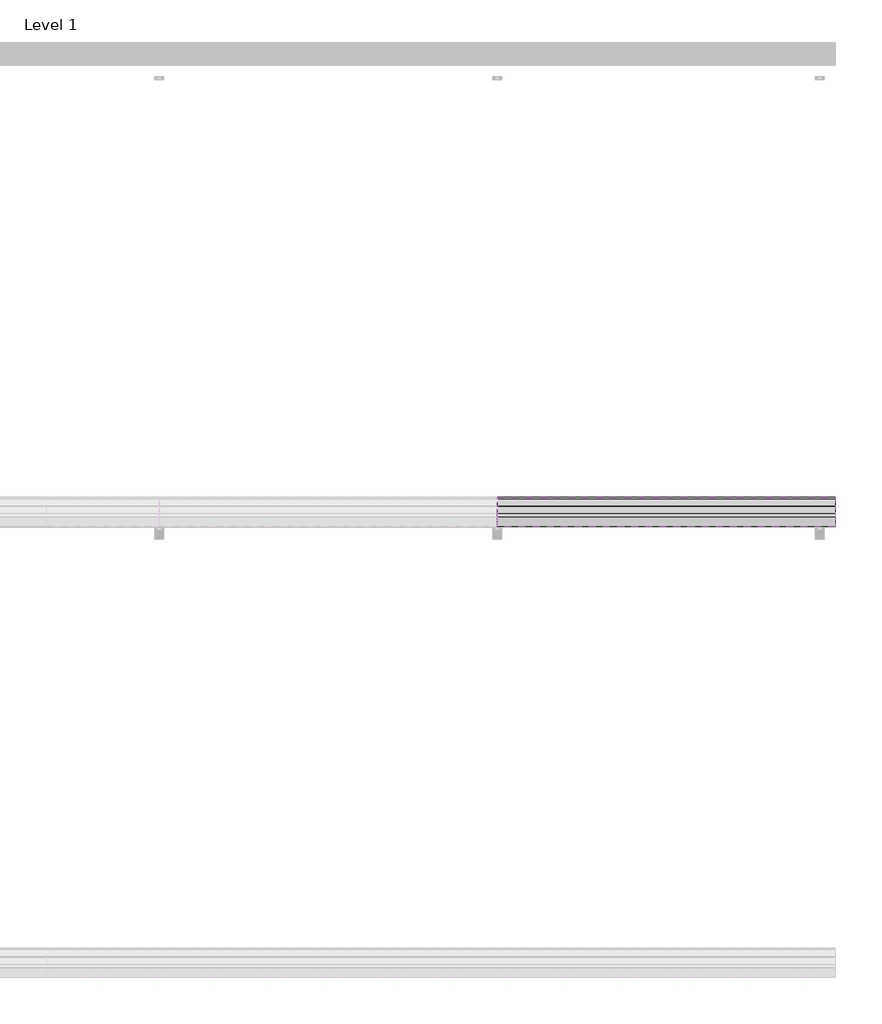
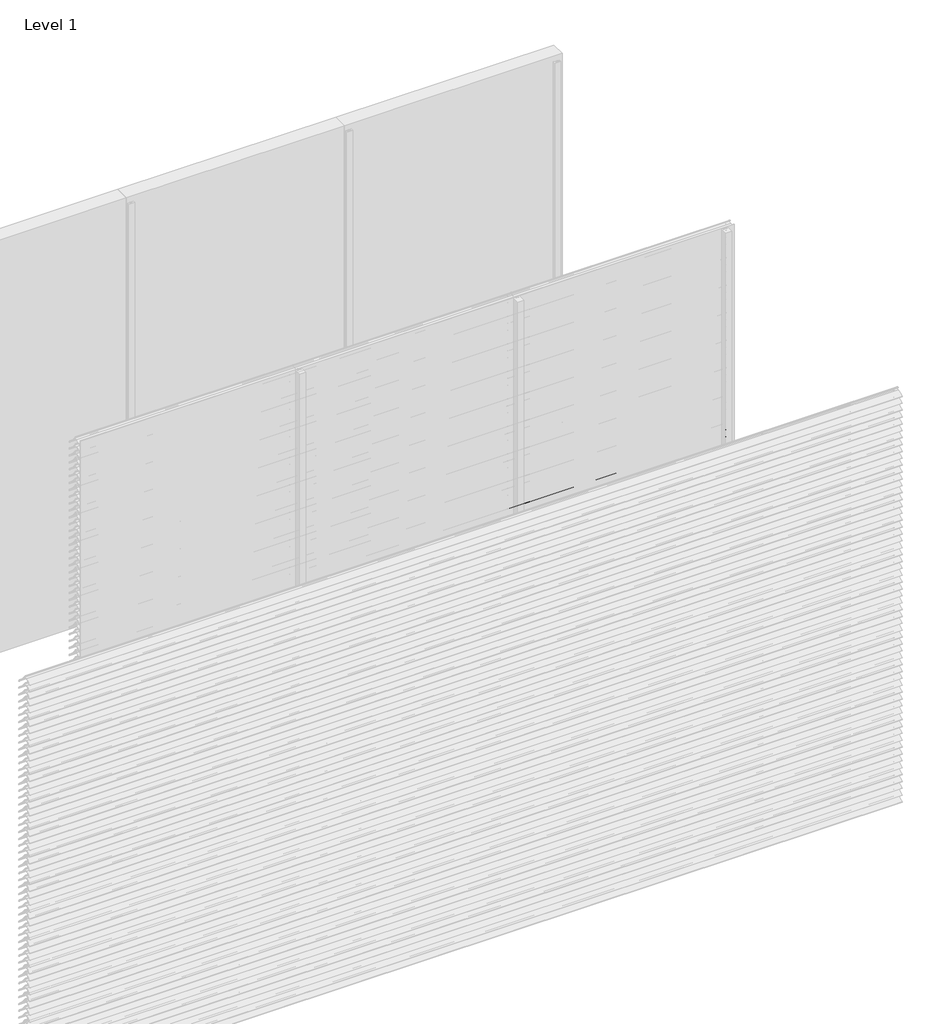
# One storey, part 87 of 173: 18 proxies.
"""IFC4 building model written with IfcOpenShell, lengths in millimetres."""

from ifc_helpers import new_model, si_unit, point, frame, frame_2d, origin, place, context, project, spatial, polyline, circle_curve, trimmed, segment, composite_curve, outline, extrude, element, save

model = new_model("IFC4")

# Units and contexts
model_context = context("Model", 3, world=origin())
ifc_project = project(units=[si_unit("LENGTHUNIT", "METRE", prefix="MILLI")], contexts=[model_context])

# Site, building, storey
site = spatial("IfcSite", under=ifc_project)
building = spatial("IfcBuilding", under=site)
storey = spatial("IfcBuildingStorey", under=building, Name="Level 1", Elevation=0.0)

# Proxies
placement = place(None, origin())
element("IfcBuildingElementProxy", 1, Name="Wall Sweeps", at=placement, inside=storey, context=model_context, shape_type="SweptSolid", body=[
    extrude(outline(composite_curve([segment(polyline([(-29998.0, 1459.1474905), (-29998.0, 1461.6227417)]), True, "CONTINUOUS"), segment(trimmed(circle_curve(frame_2d((-29951.2682172, 1416.2200208)), 65.1557103), [point((-29998.0, 1461.6227417))], [point((-29954.4014323, 1481.3003524))], False, "CARTESIAN"), True, "CONTINUOUS"), segment(polyline([(-29954.4014323, 1481.3003524), (-29934.8315836, 1481.3003524)]), True, "CONTINUOUS"), segment(trimmed(circle_curve(frame_2d((-29732.7329489, 1628.5533172)), 250.0545817), [point((-29934.8315836, 1481.3003524))], [point((-29941.4452143, 1490.8344583))], False, "CARTESIAN"), True, "CONTINUOUS"), segment(trimmed(circle_curve(frame_2d((-29953.2981792, 1485.1737835)), 13.1352966), [point((-29941.4452143, 1490.8344583))], [point((-29953.8171475, 1498.298824))], True, "CARTESIAN"), True, "CONTINUOUS"), segment(polyline([(-29953.8171475, 1498.298824), (-29953.8171475, 1500.0)]), True, "CONTINUOUS"), segment(trimmed(circle_curve(frame_2d((-29953.2981792, 1485.1737835)), 14.8352966), [point((-29953.8171475, 1500.0))], [point((-29939.9637661, 1491.6760487))], False, "CARTESIAN"), True, "CONTINUOUS"), segment(trimmed(circle_curve(frame_2d((-29732.7329489, 1628.5533172)), 248.3545817), [point((-29939.9637661, 1491.6760487))], [point((-29873.8787895, 1424.2059416))], True, "CARTESIAN"), True, "CONTINUOUS"), segment(trimmed(circle_curve(frame_2d((-29883.8147537, 1411.6649442)), 16.0), [point((-29873.8787895, 1424.2059416))], [point((-29867.8648347, 1410.4))], False, "CARTESIAN"), True, "CONTINUOUS"), segment(polyline([(-29867.8648347, 1410.4), (-29869.6712069, 1410.4)]), True, "CONTINUOUS"), segment(trimmed(circle_curve(frame_2d((-29883.8147537, 1411.6649442)), 14.2), [point((-29869.6712069, 1410.4))], [point((-29874.9518628, 1422.7594998))], True, "CARTESIAN"), True, "CONTINUOUS"), segment(trimmed(circle_curve(frame_2d((-29732.7329489, 1628.5533172)), 250.1545817), [point((-29874.9518628, 1422.7594998))], [point((-29933.7064024, 1479.6003524))], False, "CARTESIAN"), True, "CONTINUOUS"), segment(polyline([(-29933.7064024, 1479.6003524), (-29954.3602632, 1479.6003524)]), True, "CONTINUOUS"), segment(trimmed(circle_curve(frame_2d((-29951.2682172, 1416.2200208)), 63.4557103), [point((-29954.3602632, 1479.6003524))], [point((-29998.0, 1459.1474905))], True, "CARTESIAN"), True, "CONTINUOUS")], self_intersect=False)), frame((4500.0, 0.0, 0.0), z_axis=(1.0, 0.0, 0.0), x_axis=(0.0, 1.0, 0.0)), (0.0, 0.0, 1.0), 1500.0),
])
element("IfcBuildingElementProxy", 2, Name="Wall Sweeps", at=placement, inside=storey, context=model_context, shape_type="SweptSolid", body=[
    extrude(outline(composite_curve([segment(polyline([(-29998.0, 1409.1474905), (-29998.0, 1411.6227417)]), True, "CONTINUOUS"), segment(trimmed(circle_curve(frame_2d((-29951.2682172, 1366.2200208)), 65.1557103), [point((-29998.0, 1411.6227417))], [point((-29954.4014323, 1431.3003524))], False, "CARTESIAN"), True, "CONTINUOUS"), segment(polyline([(-29954.4014323, 1431.3003524), (-29934.8315836, 1431.3003524)]), True, "CONTINUOUS"), segment(trimmed(circle_curve(frame_2d((-29732.7329489, 1578.5533172)), 250.0545817), [point((-29934.8315836, 1431.3003524))], [point((-29941.4452143, 1440.8344583))], False, "CARTESIAN"), True, "CONTINUOUS"), segment(trimmed(circle_curve(frame_2d((-29953.2981792, 1435.1737835)), 13.1352966), [point((-29941.4452143, 1440.8344583))], [point((-29953.8171475, 1448.298824))], True, "CARTESIAN"), True, "CONTINUOUS"), segment(polyline([(-29953.8171475, 1448.298824), (-29953.8171475, 1450.0)]), True, "CONTINUOUS"), segment(trimmed(circle_curve(frame_2d((-29953.2981792, 1435.1737835)), 14.8352966), [point((-29953.8171475, 1450.0))], [point((-29939.9637661, 1441.6760487))], False, "CARTESIAN"), True, "CONTINUOUS"), segment(trimmed(circle_curve(frame_2d((-29732.7329489, 1578.5533172)), 248.3545817), [point((-29939.9637661, 1441.6760487))], [point((-29873.8787895, 1374.2059416))], True, "CARTESIAN"), True, "CONTINUOUS"), segment(trimmed(circle_curve(frame_2d((-29883.8147537, 1361.6649442)), 16.0), [point((-29873.8787895, 1374.2059416))], [point((-29867.8648347, 1360.4))], False, "CARTESIAN"), True, "CONTINUOUS"), segment(polyline([(-29867.8648347, 1360.4), (-29869.6712069, 1360.4)]), True, "CONTINUOUS"), segment(trimmed(circle_curve(frame_2d((-29883.8147537, 1361.6649442)), 14.2), [point((-29869.6712069, 1360.4))], [point((-29874.9518628, 1372.7594998))], True, "CARTESIAN"), True, "CONTINUOUS"), segment(trimmed(circle_curve(frame_2d((-29732.7329489, 1578.5533172)), 250.1545817), [point((-29874.9518628, 1372.7594998))], [point((-29933.7064024, 1429.6003524))], False, "CARTESIAN"), True, "CONTINUOUS"), segment(polyline([(-29933.7064024, 1429.6003524), (-29954.3602632, 1429.6003524)]), True, "CONTINUOUS"), segment(trimmed(circle_curve(frame_2d((-29951.2682172, 1366.2200208)), 63.4557103), [point((-29954.3602632, 1429.6003524))], [point((-29998.0, 1409.1474905))], True, "CARTESIAN"), True, "CONTINUOUS")], self_intersect=False)), frame((4500.0, 0.0, 0.0), z_axis=(1.0, 0.0, 0.0), x_axis=(0.0, 1.0, 0.0)), (0.0, 0.0, 1.0), 1500.0),
])
element("IfcBuildingElementProxy", 3, Name="Wall Sweeps", at=placement, inside=storey, context=model_context, shape_type="SweptSolid", body=[
    extrude(outline(composite_curve([segment(polyline([(-29998.0, 1359.1474905), (-29998.0, 1361.6227417)]), True, "CONTINUOUS"), segment(trimmed(circle_curve(frame_2d((-29951.2682172, 1316.2200208)), 65.1557103), [point((-29998.0, 1361.6227417))], [point((-29954.4014323, 1381.3003524))], False, "CARTESIAN"), True, "CONTINUOUS"), segment(polyline([(-29954.4014323, 1381.3003524), (-29934.8315836, 1381.3003524)]), True, "CONTINUOUS"), segment(trimmed(circle_curve(frame_2d((-29732.7329489, 1528.5533172)), 250.0545817), [point((-29934.8315836, 1381.3003524))], [point((-29941.4452143, 1390.8344583))], False, "CARTESIAN"), True, "CONTINUOUS"), segment(trimmed(circle_curve(frame_2d((-29953.2981792, 1385.1737835)), 13.1352966), [point((-29941.4452143, 1390.8344583))], [point((-29953.8171475, 1398.298824))], True, "CARTESIAN"), True, "CONTINUOUS"), segment(polyline([(-29953.8171475, 1398.298824), (-29953.8171475, 1400.0)]), True, "CONTINUOUS"), segment(trimmed(circle_curve(frame_2d((-29953.2981792, 1385.1737835)), 14.8352966), [point((-29953.8171475, 1400.0))], [point((-29939.9637661, 1391.6760487))], False, "CARTESIAN"), True, "CONTINUOUS"), segment(trimmed(circle_curve(frame_2d((-29732.7329489, 1528.5533172)), 248.3545817), [point((-29939.9637661, 1391.6760487))], [point((-29873.8787895, 1324.2059416))], True, "CARTESIAN"), True, "CONTINUOUS"), segment(trimmed(circle_curve(frame_2d((-29883.8147537, 1311.6649442)), 16.0), [point((-29873.8787895, 1324.2059416))], [point((-29867.8648347, 1310.4))], False, "CARTESIAN"), True, "CONTINUOUS"), segment(polyline([(-29867.8648347, 1310.4), (-29869.6712069, 1310.4)]), True, "CONTINUOUS"), segment(trimmed(circle_curve(frame_2d((-29883.8147537, 1311.6649442)), 14.2), [point((-29869.6712069, 1310.4))], [point((-29874.9518628, 1322.7594998))], True, "CARTESIAN"), True, "CONTINUOUS"), segment(trimmed(circle_curve(frame_2d((-29732.7329489, 1528.5533172)), 250.1545817), [point((-29874.9518628, 1322.7594998))], [point((-29933.7064024, 1379.6003524))], False, "CARTESIAN"), True, "CONTINUOUS"), segment(polyline([(-29933.7064024, 1379.6003524), (-29954.3602632, 1379.6003524)]), True, "CONTINUOUS"), segment(trimmed(circle_curve(frame_2d((-29951.2682172, 1316.2200208)), 63.4557103), [point((-29954.3602632, 1379.6003524))], [point((-29998.0, 1359.1474905))], True, "CARTESIAN"), True, "CONTINUOUS")], self_intersect=False)), frame((4500.0, 0.0, 0.0), z_axis=(1.0, 0.0, 0.0), x_axis=(0.0, 1.0, 0.0)), (0.0, 0.0, 1.0), 1500.0),
])
element("IfcBuildingElementProxy", 4, Name="Wall Sweeps", at=placement, inside=storey, context=model_context, shape_type="SweptSolid", body=[
    extrude(outline(composite_curve([segment(polyline([(-29998.0, 1309.1474905), (-29998.0, 1311.6227417)]), True, "CONTINUOUS"), segment(trimmed(circle_curve(frame_2d((-29951.2682172, 1266.2200208)), 65.1557103), [point((-29998.0, 1311.6227417))], [point((-29954.4014323, 1331.3003524))], False, "CARTESIAN"), True, "CONTINUOUS"), segment(polyline([(-29954.4014323, 1331.3003524), (-29934.8315836, 1331.3003524)]), True, "CONTINUOUS"), segment(trimmed(circle_curve(frame_2d((-29732.7329489, 1478.5533172)), 250.0545817), [point((-29934.8315836, 1331.3003524))], [point((-29941.4452143, 1340.8344583))], False, "CARTESIAN"), True, "CONTINUOUS"), segment(trimmed(circle_curve(frame_2d((-29953.2981792, 1335.1737835)), 13.1352966), [point((-29941.4452143, 1340.8344583))], [point((-29953.8171475, 1348.298824))], True, "CARTESIAN"), True, "CONTINUOUS"), segment(polyline([(-29953.8171475, 1348.298824), (-29953.8171475, 1350.0)]), True, "CONTINUOUS"), segment(trimmed(circle_curve(frame_2d((-29953.2981792, 1335.1737835)), 14.8352966), [point((-29953.8171475, 1350.0))], [point((-29939.9637661, 1341.6760487))], False, "CARTESIAN"), True, "CONTINUOUS"), segment(trimmed(circle_curve(frame_2d((-29732.7329489, 1478.5533172)), 248.3545817), [point((-29939.9637661, 1341.6760487))], [point((-29873.8787895, 1274.2059416))], True, "CARTESIAN"), True, "CONTINUOUS"), segment(trimmed(circle_curve(frame_2d((-29883.8147537, 1261.6649442)), 16.0), [point((-29873.8787895, 1274.2059416))], [point((-29867.8648347, 1260.4))], False, "CARTESIAN"), True, "CONTINUOUS"), segment(polyline([(-29867.8648347, 1260.4), (-29869.6712069, 1260.4)]), True, "CONTINUOUS"), segment(trimmed(circle_curve(frame_2d((-29883.8147537, 1261.6649442)), 14.2), [point((-29869.6712069, 1260.4))], [point((-29874.9518628, 1272.7594998))], True, "CARTESIAN"), True, "CONTINUOUS"), segment(trimmed(circle_curve(frame_2d((-29732.7329489, 1478.5533172)), 250.1545817), [point((-29874.9518628, 1272.7594998))], [point((-29933.7064024, 1329.6003524))], False, "CARTESIAN"), True, "CONTINUOUS"), segment(polyline([(-29933.7064024, 1329.6003524), (-29954.3602632, 1329.6003524)]), True, "CONTINUOUS"), segment(trimmed(circle_curve(frame_2d((-29951.2682172, 1266.2200208)), 63.4557103), [point((-29954.3602632, 1329.6003524))], [point((-29998.0, 1309.1474905))], True, "CARTESIAN"), True, "CONTINUOUS")], self_intersect=False)), frame((4500.0, 0.0, 0.0), z_axis=(1.0, 0.0, 0.0), x_axis=(0.0, 1.0, 0.0)), (0.0, 0.0, 1.0), 1500.0),
])
element("IfcBuildingElementProxy", 5, Name="Wall Sweeps", at=placement, inside=storey, context=model_context, shape_type="SweptSolid", body=[
    extrude(outline(composite_curve([segment(polyline([(-29998.0, 1259.1474905), (-29998.0, 1261.6227417)]), True, "CONTINUOUS"), segment(trimmed(circle_curve(frame_2d((-29951.2682172, 1216.2200208)), 65.1557103), [point((-29998.0, 1261.6227417))], [point((-29954.4014323, 1281.3003524))], False, "CARTESIAN"), True, "CONTINUOUS"), segment(polyline([(-29954.4014323, 1281.3003524), (-29934.8315836, 1281.3003524)]), True, "CONTINUOUS"), segment(trimmed(circle_curve(frame_2d((-29732.7329489, 1428.5533172)), 250.0545817), [point((-29934.8315836, 1281.3003524))], [point((-29941.4452143, 1290.8344583))], False, "CARTESIAN"), True, "CONTINUOUS"), segment(trimmed(circle_curve(frame_2d((-29953.2981792, 1285.1737835)), 13.1352966), [point((-29941.4452143, 1290.8344583))], [point((-29953.8171475, 1298.298824))], True, "CARTESIAN"), True, "CONTINUOUS"), segment(polyline([(-29953.8171475, 1298.298824), (-29953.8171475, 1300.0)]), True, "CONTINUOUS"), segment(trimmed(circle_curve(frame_2d((-29953.2981792, 1285.1737835)), 14.8352966), [point((-29953.8171475, 1300.0))], [point((-29939.9637661, 1291.6760487))], False, "CARTESIAN"), True, "CONTINUOUS"), segment(trimmed(circle_curve(frame_2d((-29732.7329489, 1428.5533172)), 248.3545817), [point((-29939.9637661, 1291.6760487))], [point((-29873.8787895, 1224.2059416))], True, "CARTESIAN"), True, "CONTINUOUS"), segment(trimmed(circle_curve(frame_2d((-29883.8147537, 1211.6649442)), 16.0), [point((-29873.8787895, 1224.2059416))], [point((-29867.8648347, 1210.4))], False, "CARTESIAN"), True, "CONTINUOUS"), segment(polyline([(-29867.8648347, 1210.4), (-29869.6712069, 1210.4)]), True, "CONTINUOUS"), segment(trimmed(circle_curve(frame_2d((-29883.8147537, 1211.6649442)), 14.2), [point((-29869.6712069, 1210.4))], [point((-29874.9518628, 1222.7594998))], True, "CARTESIAN"), True, "CONTINUOUS"), segment(trimmed(circle_curve(frame_2d((-29732.7329489, 1428.5533172)), 250.1545817), [point((-29874.9518628, 1222.7594998))], [point((-29933.7064024, 1279.6003524))], False, "CARTESIAN"), True, "CONTINUOUS"), segment(polyline([(-29933.7064024, 1279.6003524), (-29954.3602632, 1279.6003524)]), True, "CONTINUOUS"), segment(trimmed(circle_curve(frame_2d((-29951.2682172, 1216.2200208)), 63.4557103), [point((-29954.3602632, 1279.6003524))], [point((-29998.0, 1259.1474905))], True, "CARTESIAN"), True, "CONTINUOUS")], self_intersect=False)), frame((4500.0, 0.0, 0.0), z_axis=(1.0, 0.0, 0.0), x_axis=(0.0, 1.0, 0.0)), (0.0, 0.0, 1.0), 1500.0),
])
element("IfcBuildingElementProxy", 6, Name="Wall Sweeps", at=placement, inside=storey, context=model_context, shape_type="SweptSolid", body=[
    extrude(outline(composite_curve([segment(polyline([(-29998.0, 1209.1474905), (-29998.0, 1211.6227417)]), True, "CONTINUOUS"), segment(trimmed(circle_curve(frame_2d((-29951.2682172, 1166.2200208)), 65.1557103), [point((-29998.0, 1211.6227417))], [point((-29954.4014323, 1231.3003524))], False, "CARTESIAN"), True, "CONTINUOUS"), segment(polyline([(-29954.4014323, 1231.3003524), (-29934.8315836, 1231.3003524)]), True, "CONTINUOUS"), segment(trimmed(circle_curve(frame_2d((-29732.7329489, 1378.5533172)), 250.0545817), [point((-29934.8315836, 1231.3003524))], [point((-29941.4452143, 1240.8344583))], False, "CARTESIAN"), True, "CONTINUOUS"), segment(trimmed(circle_curve(frame_2d((-29953.2981792, 1235.1737835)), 13.1352966), [point((-29941.4452143, 1240.8344583))], [point((-29953.8171475, 1248.298824))], True, "CARTESIAN"), True, "CONTINUOUS"), segment(polyline([(-29953.8171475, 1248.298824), (-29953.8171475, 1250.0)]), True, "CONTINUOUS"), segment(trimmed(circle_curve(frame_2d((-29953.2981792, 1235.1737835)), 14.8352966), [point((-29953.8171475, 1250.0))], [point((-29939.9637661, 1241.6760487))], False, "CARTESIAN"), True, "CONTINUOUS"), segment(trimmed(circle_curve(frame_2d((-29732.7329489, 1378.5533172)), 248.3545817), [point((-29939.9637661, 1241.6760487))], [point((-29873.8787895, 1174.2059416))], True, "CARTESIAN"), True, "CONTINUOUS"), segment(trimmed(circle_curve(frame_2d((-29883.8147537, 1161.6649442)), 16.0), [point((-29873.8787895, 1174.2059416))], [point((-29867.8648347, 1160.4))], False, "CARTESIAN"), True, "CONTINUOUS"), segment(polyline([(-29867.8648347, 1160.4), (-29869.6712069, 1160.4)]), True, "CONTINUOUS"), segment(trimmed(circle_curve(frame_2d((-29883.8147537, 1161.6649442)), 14.2), [point((-29869.6712069, 1160.4))], [point((-29874.9518628, 1172.7594998))], True, "CARTESIAN"), True, "CONTINUOUS"), segment(trimmed(circle_curve(frame_2d((-29732.7329489, 1378.5533172)), 250.1545817), [point((-29874.9518628, 1172.7594998))], [point((-29933.7064024, 1229.6003524))], False, "CARTESIAN"), True, "CONTINUOUS"), segment(polyline([(-29933.7064024, 1229.6003524), (-29954.3602632, 1229.6003524)]), True, "CONTINUOUS"), segment(trimmed(circle_curve(frame_2d((-29951.2682172, 1166.2200208)), 63.4557103), [point((-29954.3602632, 1229.6003524))], [point((-29998.0, 1209.1474905))], True, "CARTESIAN"), True, "CONTINUOUS")], self_intersect=False)), frame((4500.0, 0.0, 0.0), z_axis=(1.0, 0.0, 0.0), x_axis=(0.0, 1.0, 0.0)), (0.0, 0.0, 1.0), 1500.0),
])
element("IfcBuildingElementProxy", 7, Name="Wall Sweeps", at=placement, inside=storey, context=model_context, shape_type="SweptSolid", body=[
    extrude(outline(composite_curve([segment(polyline([(-29998.0, 1159.1474905), (-29998.0, 1161.6227417)]), True, "CONTINUOUS"), segment(trimmed(circle_curve(frame_2d((-29951.2682172, 1116.2200208)), 65.1557103), [point((-29998.0, 1161.6227417))], [point((-29954.4014323, 1181.3003524))], False, "CARTESIAN"), True, "CONTINUOUS"), segment(polyline([(-29954.4014323, 1181.3003524), (-29934.8315836, 1181.3003524)]), True, "CONTINUOUS"), segment(trimmed(circle_curve(frame_2d((-29732.7329489, 1328.5533172)), 250.0545817), [point((-29934.8315836, 1181.3003524))], [point((-29941.4452143, 1190.8344583))], False, "CARTESIAN"), True, "CONTINUOUS"), segment(trimmed(circle_curve(frame_2d((-29953.2981792, 1185.1737835)), 13.1352966), [point((-29941.4452143, 1190.8344583))], [point((-29953.8171475, 1198.298824))], True, "CARTESIAN"), True, "CONTINUOUS"), segment(polyline([(-29953.8171475, 1198.298824), (-29953.8171475, 1200.0)]), True, "CONTINUOUS"), segment(trimmed(circle_curve(frame_2d((-29953.2981792, 1185.1737835)), 14.8352966), [point((-29953.8171475, 1200.0))], [point((-29939.9637661, 1191.6760487))], False, "CARTESIAN"), True, "CONTINUOUS"), segment(trimmed(circle_curve(frame_2d((-29732.7329489, 1328.5533172)), 248.3545817), [point((-29939.9637661, 1191.6760487))], [point((-29873.8787895, 1124.2059416))], True, "CARTESIAN"), True, "CONTINUOUS"), segment(trimmed(circle_curve(frame_2d((-29883.8147537, 1111.6649442)), 16.0), [point((-29873.8787895, 1124.2059416))], [point((-29867.8648347, 1110.4))], False, "CARTESIAN"), True, "CONTINUOUS"), segment(polyline([(-29867.8648347, 1110.4), (-29869.6712069, 1110.4)]), True, "CONTINUOUS"), segment(trimmed(circle_curve(frame_2d((-29883.8147537, 1111.6649442)), 14.2), [point((-29869.6712069, 1110.4))], [point((-29874.9518628, 1122.7594998))], True, "CARTESIAN"), True, "CONTINUOUS"), segment(trimmed(circle_curve(frame_2d((-29732.7329489, 1328.5533172)), 250.1545817), [point((-29874.9518628, 1122.7594998))], [point((-29933.7064024, 1179.6003524))], False, "CARTESIAN"), True, "CONTINUOUS"), segment(polyline([(-29933.7064024, 1179.6003524), (-29954.3602632, 1179.6003524)]), True, "CONTINUOUS"), segment(trimmed(circle_curve(frame_2d((-29951.2682172, 1116.2200208)), 63.4557103), [point((-29954.3602632, 1179.6003524))], [point((-29998.0, 1159.1474905))], True, "CARTESIAN"), True, "CONTINUOUS")], self_intersect=False)), frame((4500.0, 0.0, 0.0), z_axis=(1.0, 0.0, 0.0), x_axis=(0.0, 1.0, 0.0)), (0.0, 0.0, 1.0), 1500.0),
])
element("IfcBuildingElementProxy", 8, Name="Wall Sweeps", at=placement, inside=storey, context=model_context, shape_type="SweptSolid", body=[
    extrude(outline(composite_curve([segment(polyline([(-29998.0, 1109.1474905), (-29998.0, 1111.6227417)]), True, "CONTINUOUS"), segment(trimmed(circle_curve(frame_2d((-29951.2682172, 1066.2200208)), 65.1557103), [point((-29998.0, 1111.6227417))], [point((-29954.4014323, 1131.3003524))], False, "CARTESIAN"), True, "CONTINUOUS"), segment(polyline([(-29954.4014323, 1131.3003524), (-29934.8315836, 1131.3003524)]), True, "CONTINUOUS"), segment(trimmed(circle_curve(frame_2d((-29732.7329489, 1278.5533172)), 250.0545817), [point((-29934.8315836, 1131.3003524))], [point((-29941.4452143, 1140.8344583))], False, "CARTESIAN"), True, "CONTINUOUS"), segment(trimmed(circle_curve(frame_2d((-29953.2981792, 1135.1737835)), 13.1352966), [point((-29941.4452143, 1140.8344583))], [point((-29953.8171475, 1148.298824))], True, "CARTESIAN"), True, "CONTINUOUS"), segment(polyline([(-29953.8171475, 1148.298824), (-29953.8171475, 1150.0)]), True, "CONTINUOUS"), segment(trimmed(circle_curve(frame_2d((-29953.2981792, 1135.1737835)), 14.8352966), [point((-29953.8171475, 1150.0))], [point((-29939.9637661, 1141.6760487))], False, "CARTESIAN"), True, "CONTINUOUS"), segment(trimmed(circle_curve(frame_2d((-29732.7329489, 1278.5533172)), 248.3545817), [point((-29939.9637661, 1141.6760487))], [point((-29873.8787895, 1074.2059416))], True, "CARTESIAN"), True, "CONTINUOUS"), segment(trimmed(circle_curve(frame_2d((-29883.8147537, 1061.6649442)), 16.0), [point((-29873.8787895, 1074.2059416))], [point((-29867.8648347, 1060.4))], False, "CARTESIAN"), True, "CONTINUOUS"), segment(polyline([(-29867.8648347, 1060.4), (-29869.6712069, 1060.4)]), True, "CONTINUOUS"), segment(trimmed(circle_curve(frame_2d((-29883.8147537, 1061.6649442)), 14.2), [point((-29869.6712069, 1060.4))], [point((-29874.9518628, 1072.7594998))], True, "CARTESIAN"), True, "CONTINUOUS"), segment(trimmed(circle_curve(frame_2d((-29732.7329489, 1278.5533172)), 250.1545817), [point((-29874.9518628, 1072.7594998))], [point((-29933.7064024, 1129.6003524))], False, "CARTESIAN"), True, "CONTINUOUS"), segment(polyline([(-29933.7064024, 1129.6003524), (-29954.3602632, 1129.6003524)]), True, "CONTINUOUS"), segment(trimmed(circle_curve(frame_2d((-29951.2682172, 1066.2200208)), 63.4557103), [point((-29954.3602632, 1129.6003524))], [point((-29998.0, 1109.1474905))], True, "CARTESIAN"), True, "CONTINUOUS")], self_intersect=False)), frame((4500.0, 0.0, 0.0), z_axis=(1.0, 0.0, 0.0), x_axis=(0.0, 1.0, 0.0)), (0.0, 0.0, 1.0), 1500.0),
])
element("IfcBuildingElementProxy", 9, Name="Wall Sweeps", at=placement, inside=storey, context=model_context, shape_type="SweptSolid", body=[
    extrude(outline(composite_curve([segment(polyline([(-29998.0, 1059.1474905), (-29998.0, 1061.6227417)]), True, "CONTINUOUS"), segment(trimmed(circle_curve(frame_2d((-29951.2682172, 1016.2200208)), 65.1557103), [point((-29998.0, 1061.6227417))], [point((-29954.4014323, 1081.3003524))], False, "CARTESIAN"), True, "CONTINUOUS"), segment(polyline([(-29954.4014323, 1081.3003524), (-29934.8315836, 1081.3003524)]), True, "CONTINUOUS"), segment(trimmed(circle_curve(frame_2d((-29732.7329489, 1228.5533172)), 250.0545817), [point((-29934.8315836, 1081.3003524))], [point((-29941.4452143, 1090.8344583))], False, "CARTESIAN"), True, "CONTINUOUS"), segment(trimmed(circle_curve(frame_2d((-29953.2981792, 1085.1737835)), 13.1352966), [point((-29941.4452143, 1090.8344583))], [point((-29953.8171475, 1098.298824))], True, "CARTESIAN"), True, "CONTINUOUS"), segment(polyline([(-29953.8171475, 1098.298824), (-29953.8171475, 1100.0)]), True, "CONTINUOUS"), segment(trimmed(circle_curve(frame_2d((-29953.2981792, 1085.1737835)), 14.8352966), [point((-29953.8171475, 1100.0))], [point((-29939.9637661, 1091.6760487))], False, "CARTESIAN"), True, "CONTINUOUS"), segment(trimmed(circle_curve(frame_2d((-29732.7329489, 1228.5533172)), 248.3545817), [point((-29939.9637661, 1091.6760487))], [point((-29873.8787895, 1024.2059416))], True, "CARTESIAN"), True, "CONTINUOUS"), segment(trimmed(circle_curve(frame_2d((-29883.8147537, 1011.6649442)), 16.0), [point((-29873.8787895, 1024.2059416))], [point((-29867.8648347, 1010.4))], False, "CARTESIAN"), True, "CONTINUOUS"), segment(polyline([(-29867.8648347, 1010.4), (-29869.6712069, 1010.4)]), True, "CONTINUOUS"), segment(trimmed(circle_curve(frame_2d((-29883.8147537, 1011.6649442)), 14.2), [point((-29869.6712069, 1010.4))], [point((-29874.9518628, 1022.7594998))], True, "CARTESIAN"), True, "CONTINUOUS"), segment(trimmed(circle_curve(frame_2d((-29732.7329489, 1228.5533172)), 250.1545817), [point((-29874.9518628, 1022.7594998))], [point((-29933.7064024, 1079.6003524))], False, "CARTESIAN"), True, "CONTINUOUS"), segment(polyline([(-29933.7064024, 1079.6003524), (-29954.3602632, 1079.6003524)]), True, "CONTINUOUS"), segment(trimmed(circle_curve(frame_2d((-29951.2682172, 1016.2200208)), 63.4557103), [point((-29954.3602632, 1079.6003524))], [point((-29998.0, 1059.1474905))], True, "CARTESIAN"), True, "CONTINUOUS")], self_intersect=False)), frame((4500.0, 0.0, 0.0), z_axis=(1.0, 0.0, 0.0), x_axis=(0.0, 1.0, 0.0)), (0.0, 0.0, 1.0), 1500.0),
])
element("IfcBuildingElementProxy", 10, Name="Wall Sweeps", at=placement, inside=storey, context=model_context, shape_type="SweptSolid", body=[
    extrude(outline(composite_curve([segment(polyline([(-29998.0, 1009.1474905), (-29998.0, 1011.6227417)]), True, "CONTINUOUS"), segment(trimmed(circle_curve(frame_2d((-29951.2682172, 966.2200208)), 65.1557103), [point((-29998.0, 1011.6227417))], [point((-29954.4014323, 1031.3003524))], False, "CARTESIAN"), True, "CONTINUOUS"), segment(polyline([(-29954.4014323, 1031.3003524), (-29934.8315836, 1031.3003524)]), True, "CONTINUOUS"), segment(trimmed(circle_curve(frame_2d((-29732.7329489, 1178.5533172)), 250.0545817), [point((-29934.8315836, 1031.3003524))], [point((-29941.4452143, 1040.8344583))], False, "CARTESIAN"), True, "CONTINUOUS"), segment(trimmed(circle_curve(frame_2d((-29953.2981792, 1035.1737835)), 13.1352966), [point((-29941.4452143, 1040.8344583))], [point((-29953.8171475, 1048.298824))], True, "CARTESIAN"), True, "CONTINUOUS"), segment(polyline([(-29953.8171475, 1048.298824), (-29953.8171475, 1050.0)]), True, "CONTINUOUS"), segment(trimmed(circle_curve(frame_2d((-29953.2981792, 1035.1737835)), 14.8352966), [point((-29953.8171475, 1050.0))], [point((-29939.9637661, 1041.6760487))], False, "CARTESIAN"), True, "CONTINUOUS"), segment(trimmed(circle_curve(frame_2d((-29732.7329489, 1178.5533172)), 248.3545817), [point((-29939.9637661, 1041.6760487))], [point((-29873.8787895, 974.2059416))], True, "CARTESIAN"), True, "CONTINUOUS"), segment(trimmed(circle_curve(frame_2d((-29883.8147537, 961.6649442)), 16.0), [point((-29873.8787895, 974.2059416))], [point((-29867.8648347, 960.4))], False, "CARTESIAN"), True, "CONTINUOUS"), segment(polyline([(-29867.8648347, 960.4), (-29869.6712069, 960.4)]), True, "CONTINUOUS"), segment(trimmed(circle_curve(frame_2d((-29883.8147537, 961.6649442)), 14.2), [point((-29869.6712069, 960.4))], [point((-29874.9518628, 972.7594998))], True, "CARTESIAN"), True, "CONTINUOUS"), segment(trimmed(circle_curve(frame_2d((-29732.7329489, 1178.5533172)), 250.1545817), [point((-29874.9518628, 972.7594998))], [point((-29933.7064024, 1029.6003524))], False, "CARTESIAN"), True, "CONTINUOUS"), segment(polyline([(-29933.7064024, 1029.6003524), (-29954.3602632, 1029.6003524)]), True, "CONTINUOUS"), segment(trimmed(circle_curve(frame_2d((-29951.2682172, 966.2200208)), 63.4557103), [point((-29954.3602632, 1029.6003524))], [point((-29998.0, 1009.1474905))], True, "CARTESIAN"), True, "CONTINUOUS")], self_intersect=False)), frame((4500.0, 0.0, 0.0), z_axis=(1.0, 0.0, 0.0), x_axis=(0.0, 1.0, 0.0)), (0.0, 0.0, 1.0), 1500.0),
])
element("IfcBuildingElementProxy", 11, Name="Wall Sweeps", at=placement, inside=storey, context=model_context, shape_type="SweptSolid", body=[
    extrude(outline(composite_curve([segment(polyline([(-29998.0, 959.1474905), (-29998.0, 961.6227417)]), True, "CONTINUOUS"), segment(trimmed(circle_curve(frame_2d((-29951.2682172, 916.2200208)), 65.1557103), [point((-29998.0, 961.6227417))], [point((-29954.4014323, 981.3003524))], False, "CARTESIAN"), True, "CONTINUOUS"), segment(polyline([(-29954.4014323, 981.3003524), (-29934.8315836, 981.3003524)]), True, "CONTINUOUS"), segment(trimmed(circle_curve(frame_2d((-29732.7329489, 1128.5533172)), 250.0545817), [point((-29934.8315836, 981.3003524))], [point((-29941.4452143, 990.8344583))], False, "CARTESIAN"), True, "CONTINUOUS"), segment(trimmed(circle_curve(frame_2d((-29953.2981792, 985.1737835)), 13.1352966), [point((-29941.4452143, 990.8344583))], [point((-29953.8171475, 998.298824))], True, "CARTESIAN"), True, "CONTINUOUS"), segment(polyline([(-29953.8171475, 998.298824), (-29953.8171475, 1000.0)]), True, "CONTINUOUS"), segment(trimmed(circle_curve(frame_2d((-29953.2981792, 985.1737835)), 14.8352966), [point((-29953.8171475, 1000.0))], [point((-29939.9637661, 991.6760487))], False, "CARTESIAN"), True, "CONTINUOUS"), segment(trimmed(circle_curve(frame_2d((-29732.7329489, 1128.5533172)), 248.3545817), [point((-29939.9637661, 991.6760487))], [point((-29873.8787895, 924.2059416))], True, "CARTESIAN"), True, "CONTINUOUS"), segment(trimmed(circle_curve(frame_2d((-29883.8147537, 911.6649442)), 16.0), [point((-29873.8787895, 924.2059416))], [point((-29867.8648347, 910.4))], False, "CARTESIAN"), True, "CONTINUOUS"), segment(polyline([(-29867.8648347, 910.4), (-29869.6712069, 910.4)]), True, "CONTINUOUS"), segment(trimmed(circle_curve(frame_2d((-29883.8147537, 911.6649442)), 14.2), [point((-29869.6712069, 910.4))], [point((-29874.9518628, 922.7594998))], True, "CARTESIAN"), True, "CONTINUOUS"), segment(trimmed(circle_curve(frame_2d((-29732.7329489, 1128.5533172)), 250.1545817), [point((-29874.9518628, 922.7594998))], [point((-29933.7064024, 979.6003524))], False, "CARTESIAN"), True, "CONTINUOUS"), segment(polyline([(-29933.7064024, 979.6003524), (-29954.3602632, 979.6003524)]), True, "CONTINUOUS"), segment(trimmed(circle_curve(frame_2d((-29951.2682172, 916.2200208)), 63.4557103), [point((-29954.3602632, 979.6003524))], [point((-29998.0, 959.1474905))], True, "CARTESIAN"), True, "CONTINUOUS")], self_intersect=False)), frame((4500.0, 0.0, 0.0), z_axis=(1.0, 0.0, 0.0), x_axis=(0.0, 1.0, 0.0)), (0.0, 0.0, 1.0), 1500.0),
])
element("IfcBuildingElementProxy", 12, Name="Wall Sweeps", at=placement, inside=storey, context=model_context, shape_type="SweptSolid", body=[
    extrude(outline(composite_curve([segment(polyline([(-29998.0, 909.1474905), (-29998.0, 911.6227417)]), True, "CONTINUOUS"), segment(trimmed(circle_curve(frame_2d((-29951.2682172, 866.2200208)), 65.1557103), [point((-29998.0, 911.6227417))], [point((-29954.4014323, 931.3003524))], False, "CARTESIAN"), True, "CONTINUOUS"), segment(polyline([(-29954.4014323, 931.3003524), (-29934.8315836, 931.3003524)]), True, "CONTINUOUS"), segment(trimmed(circle_curve(frame_2d((-29732.7329489, 1078.5533172)), 250.0545817), [point((-29934.8315836, 931.3003524))], [point((-29941.4452143, 940.8344583))], False, "CARTESIAN"), True, "CONTINUOUS"), segment(trimmed(circle_curve(frame_2d((-29953.2981792, 935.1737835)), 13.1352966), [point((-29941.4452143, 940.8344583))], [point((-29953.8171475, 948.298824))], True, "CARTESIAN"), True, "CONTINUOUS"), segment(polyline([(-29953.8171475, 948.298824), (-29953.8171475, 950.0)]), True, "CONTINUOUS"), segment(trimmed(circle_curve(frame_2d((-29953.2981792, 935.1737835)), 14.8352966), [point((-29953.8171475, 950.0))], [point((-29939.9637661, 941.6760487))], False, "CARTESIAN"), True, "CONTINUOUS"), segment(trimmed(circle_curve(frame_2d((-29732.7329489, 1078.5533172)), 248.3545817), [point((-29939.9637661, 941.6760487))], [point((-29873.8787895, 874.2059416))], True, "CARTESIAN"), True, "CONTINUOUS"), segment(trimmed(circle_curve(frame_2d((-29883.8147537, 861.6649442)), 16.0), [point((-29873.8787895, 874.2059416))], [point((-29867.8648347, 860.4))], False, "CARTESIAN"), True, "CONTINUOUS"), segment(polyline([(-29867.8648347, 860.4), (-29869.6712069, 860.4)]), True, "CONTINUOUS"), segment(trimmed(circle_curve(frame_2d((-29883.8147537, 861.6649442)), 14.2), [point((-29869.6712069, 860.4))], [point((-29874.9518628, 872.7594998))], True, "CARTESIAN"), True, "CONTINUOUS"), segment(trimmed(circle_curve(frame_2d((-29732.7329489, 1078.5533172)), 250.1545817), [point((-29874.9518628, 872.7594998))], [point((-29933.7064024, 929.6003524))], False, "CARTESIAN"), True, "CONTINUOUS"), segment(polyline([(-29933.7064024, 929.6003524), (-29954.3602632, 929.6003524)]), True, "CONTINUOUS"), segment(trimmed(circle_curve(frame_2d((-29951.2682172, 866.2200208)), 63.4557103), [point((-29954.3602632, 929.6003524))], [point((-29998.0, 909.1474905))], True, "CARTESIAN"), True, "CONTINUOUS")], self_intersect=False)), frame((4500.0, 0.0, 0.0), z_axis=(1.0, 0.0, 0.0), x_axis=(0.0, 1.0, 0.0)), (0.0, 0.0, 1.0), 1500.0),
])
element("IfcBuildingElementProxy", 13, Name="Wall Sweeps", at=placement, inside=storey, context=model_context, shape_type="SweptSolid", body=[
    extrude(outline(composite_curve([segment(polyline([(-29998.0, 859.1474905), (-29998.0, 861.6227417)]), True, "CONTINUOUS"), segment(trimmed(circle_curve(frame_2d((-29951.2682172, 816.2200208)), 65.1557103), [point((-29998.0, 861.6227417))], [point((-29954.4014323, 881.3003524))], False, "CARTESIAN"), True, "CONTINUOUS"), segment(polyline([(-29954.4014323, 881.3003524), (-29934.8315836, 881.3003524)]), True, "CONTINUOUS"), segment(trimmed(circle_curve(frame_2d((-29732.7329489, 1028.5533172)), 250.0545817), [point((-29934.8315836, 881.3003524))], [point((-29941.4452143, 890.8344583))], False, "CARTESIAN"), True, "CONTINUOUS"), segment(trimmed(circle_curve(frame_2d((-29953.2981792, 885.1737835)), 13.1352966), [point((-29941.4452143, 890.8344583))], [point((-29953.8171475, 898.298824))], True, "CARTESIAN"), True, "CONTINUOUS"), segment(polyline([(-29953.8171475, 898.298824), (-29953.8171475, 900.0)]), True, "CONTINUOUS"), segment(trimmed(circle_curve(frame_2d((-29953.2981792, 885.1737835)), 14.8352966), [point((-29953.8171475, 900.0))], [point((-29939.9637661, 891.6760487))], False, "CARTESIAN"), True, "CONTINUOUS"), segment(trimmed(circle_curve(frame_2d((-29732.7329489, 1028.5533172)), 248.3545817), [point((-29939.9637661, 891.6760487))], [point((-29873.8787895, 824.2059416))], True, "CARTESIAN"), True, "CONTINUOUS"), segment(trimmed(circle_curve(frame_2d((-29883.8147537, 811.6649442)), 16.0), [point((-29873.8787895, 824.2059416))], [point((-29867.8648347, 810.4))], False, "CARTESIAN"), True, "CONTINUOUS"), segment(polyline([(-29867.8648347, 810.4), (-29869.6712069, 810.4)]), True, "CONTINUOUS"), segment(trimmed(circle_curve(frame_2d((-29883.8147537, 811.6649442)), 14.2), [point((-29869.6712069, 810.4))], [point((-29874.9518628, 822.7594998))], True, "CARTESIAN"), True, "CONTINUOUS"), segment(trimmed(circle_curve(frame_2d((-29732.7329489, 1028.5533172)), 250.1545817), [point((-29874.9518628, 822.7594998))], [point((-29933.7064024, 879.6003524))], False, "CARTESIAN"), True, "CONTINUOUS"), segment(polyline([(-29933.7064024, 879.6003524), (-29954.3602632, 879.6003524)]), True, "CONTINUOUS"), segment(trimmed(circle_curve(frame_2d((-29951.2682172, 816.2200208)), 63.4557103), [point((-29954.3602632, 879.6003524))], [point((-29998.0, 859.1474905))], True, "CARTESIAN"), True, "CONTINUOUS")], self_intersect=False)), frame((4500.0, 0.0, 0.0), z_axis=(1.0, 0.0, 0.0), x_axis=(0.0, 1.0, 0.0)), (0.0, 0.0, 1.0), 1500.0),
])
element("IfcBuildingElementProxy", 14, Name="Wall Sweeps", at=placement, inside=storey, context=model_context, shape_type="SweptSolid", body=[
    extrude(outline(composite_curve([segment(polyline([(-29998.0, 809.1474905), (-29998.0, 811.6227417)]), True, "CONTINUOUS"), segment(trimmed(circle_curve(frame_2d((-29951.2682172, 766.2200208)), 65.1557103), [point((-29998.0, 811.6227417))], [point((-29954.4014323, 831.3003524))], False, "CARTESIAN"), True, "CONTINUOUS"), segment(polyline([(-29954.4014323, 831.3003524), (-29934.8315836, 831.3003524)]), True, "CONTINUOUS"), segment(trimmed(circle_curve(frame_2d((-29732.7329489, 978.5533172)), 250.0545817), [point((-29934.8315836, 831.3003524))], [point((-29941.4452143, 840.8344583))], False, "CARTESIAN"), True, "CONTINUOUS"), segment(trimmed(circle_curve(frame_2d((-29953.2981792, 835.1737835)), 13.1352966), [point((-29941.4452143, 840.8344583))], [point((-29953.8171475, 848.298824))], True, "CARTESIAN"), True, "CONTINUOUS"), segment(polyline([(-29953.8171475, 848.298824), (-29953.8171475, 850.0)]), True, "CONTINUOUS"), segment(trimmed(circle_curve(frame_2d((-29953.2981792, 835.1737835)), 14.8352966), [point((-29953.8171475, 850.0))], [point((-29939.9637661, 841.6760487))], False, "CARTESIAN"), True, "CONTINUOUS"), segment(trimmed(circle_curve(frame_2d((-29732.7329489, 978.5533172)), 248.3545817), [point((-29939.9637661, 841.6760487))], [point((-29873.8787895, 774.2059416))], True, "CARTESIAN"), True, "CONTINUOUS"), segment(trimmed(circle_curve(frame_2d((-29883.8147537, 761.6649442)), 16.0), [point((-29873.8787895, 774.2059416))], [point((-29867.8648347, 760.4))], False, "CARTESIAN"), True, "CONTINUOUS"), segment(polyline([(-29867.8648347, 760.4), (-29869.6712069, 760.4)]), True, "CONTINUOUS"), segment(trimmed(circle_curve(frame_2d((-29883.8147537, 761.6649442)), 14.2), [point((-29869.6712069, 760.4))], [point((-29874.9518628, 772.7594998))], True, "CARTESIAN"), True, "CONTINUOUS"), segment(trimmed(circle_curve(frame_2d((-29732.7329489, 978.5533172)), 250.1545817), [point((-29874.9518628, 772.7594998))], [point((-29933.7064024, 829.6003524))], False, "CARTESIAN"), True, "CONTINUOUS"), segment(polyline([(-29933.7064024, 829.6003524), (-29954.3602632, 829.6003524)]), True, "CONTINUOUS"), segment(trimmed(circle_curve(frame_2d((-29951.2682172, 766.2200208)), 63.4557103), [point((-29954.3602632, 829.6003524))], [point((-29998.0, 809.1474905))], True, "CARTESIAN"), True, "CONTINUOUS")], self_intersect=False)), frame((4500.0, 0.0, 0.0), z_axis=(1.0, 0.0, 0.0), x_axis=(0.0, 1.0, 0.0)), (0.0, 0.0, 1.0), 1500.0),
])
element("IfcBuildingElementProxy", 15, Name="Wall Sweeps", at=placement, inside=storey, context=model_context, shape_type="SweptSolid", body=[
    extrude(outline(composite_curve([segment(polyline([(-29998.0, 759.1474905), (-29998.0, 761.6227417)]), True, "CONTINUOUS"), segment(trimmed(circle_curve(frame_2d((-29951.2682172, 716.2200208)), 65.1557103), [point((-29998.0, 761.6227417))], [point((-29954.4014323, 781.3003524))], False, "CARTESIAN"), True, "CONTINUOUS"), segment(polyline([(-29954.4014323, 781.3003524), (-29934.8315836, 781.3003524)]), True, "CONTINUOUS"), segment(trimmed(circle_curve(frame_2d((-29732.7329489, 928.5533172)), 250.0545817), [point((-29934.8315836, 781.3003524))], [point((-29941.4452143, 790.8344583))], False, "CARTESIAN"), True, "CONTINUOUS"), segment(trimmed(circle_curve(frame_2d((-29953.2981792, 785.1737835)), 13.1352966), [point((-29941.4452143, 790.8344583))], [point((-29953.8171475, 798.298824))], True, "CARTESIAN"), True, "CONTINUOUS"), segment(polyline([(-29953.8171475, 798.298824), (-29953.8171475, 800.0)]), True, "CONTINUOUS"), segment(trimmed(circle_curve(frame_2d((-29953.2981792, 785.1737835)), 14.8352966), [point((-29953.8171475, 800.0))], [point((-29939.9637661, 791.6760487))], False, "CARTESIAN"), True, "CONTINUOUS"), segment(trimmed(circle_curve(frame_2d((-29732.7329489, 928.5533172)), 248.3545817), [point((-29939.9637661, 791.6760487))], [point((-29873.8787895, 724.2059416))], True, "CARTESIAN"), True, "CONTINUOUS"), segment(trimmed(circle_curve(frame_2d((-29883.8147537, 711.6649442)), 16.0), [point((-29873.8787895, 724.2059416))], [point((-29867.8648347, 710.4))], False, "CARTESIAN"), True, "CONTINUOUS"), segment(polyline([(-29867.8648347, 710.4), (-29869.6712069, 710.4)]), True, "CONTINUOUS"), segment(trimmed(circle_curve(frame_2d((-29883.8147537, 711.6649442)), 14.2), [point((-29869.6712069, 710.4))], [point((-29874.9518628, 722.7594998))], True, "CARTESIAN"), True, "CONTINUOUS"), segment(trimmed(circle_curve(frame_2d((-29732.7329489, 928.5533172)), 250.1545817), [point((-29874.9518628, 722.7594998))], [point((-29933.7064024, 779.6003524))], False, "CARTESIAN"), True, "CONTINUOUS"), segment(polyline([(-29933.7064024, 779.6003524), (-29954.3602632, 779.6003524)]), True, "CONTINUOUS"), segment(trimmed(circle_curve(frame_2d((-29951.2682172, 716.2200208)), 63.4557103), [point((-29954.3602632, 779.6003524))], [point((-29998.0, 759.1474905))], True, "CARTESIAN"), True, "CONTINUOUS")], self_intersect=False)), frame((4500.0, 0.0, 0.0), z_axis=(1.0, 0.0, 0.0), x_axis=(0.0, 1.0, 0.0)), (0.0, 0.0, 1.0), 1500.0),
])
element("IfcBuildingElementProxy", 16, Name="Wall Sweeps", at=placement, inside=storey, context=model_context, shape_type="SweptSolid", body=[
    extrude(outline(composite_curve([segment(polyline([(-29998.0, 709.1474905), (-29998.0, 711.6227417)]), True, "CONTINUOUS"), segment(trimmed(circle_curve(frame_2d((-29951.2682172, 666.2200208)), 65.1557103), [point((-29998.0, 711.6227417))], [point((-29954.4014323, 731.3003524))], False, "CARTESIAN"), True, "CONTINUOUS"), segment(polyline([(-29954.4014323, 731.3003524), (-29934.8315836, 731.3003524)]), True, "CONTINUOUS"), segment(trimmed(circle_curve(frame_2d((-29732.7329489, 878.5533172)), 250.0545817), [point((-29934.8315836, 731.3003524))], [point((-29941.4452143, 740.8344583))], False, "CARTESIAN"), True, "CONTINUOUS"), segment(trimmed(circle_curve(frame_2d((-29953.2981792, 735.1737835)), 13.1352966), [point((-29941.4452143, 740.8344583))], [point((-29953.8171475, 748.298824))], True, "CARTESIAN"), True, "CONTINUOUS"), segment(polyline([(-29953.8171475, 748.298824), (-29953.8171475, 750.0)]), True, "CONTINUOUS"), segment(trimmed(circle_curve(frame_2d((-29953.2981792, 735.1737835)), 14.8352966), [point((-29953.8171475, 750.0))], [point((-29939.9637661, 741.6760487))], False, "CARTESIAN"), True, "CONTINUOUS"), segment(trimmed(circle_curve(frame_2d((-29732.7329489, 878.5533172)), 248.3545817), [point((-29939.9637661, 741.6760487))], [point((-29873.8787895, 674.2059416))], True, "CARTESIAN"), True, "CONTINUOUS"), segment(trimmed(circle_curve(frame_2d((-29883.8147537, 661.6649442)), 16.0), [point((-29873.8787895, 674.2059416))], [point((-29867.8648347, 660.4))], False, "CARTESIAN"), True, "CONTINUOUS"), segment(polyline([(-29867.8648347, 660.4), (-29869.6712069, 660.4)]), True, "CONTINUOUS"), segment(trimmed(circle_curve(frame_2d((-29883.8147537, 661.6649442)), 14.2), [point((-29869.6712069, 660.4))], [point((-29874.9518628, 672.7594998))], True, "CARTESIAN"), True, "CONTINUOUS"), segment(trimmed(circle_curve(frame_2d((-29732.7329489, 878.5533172)), 250.1545817), [point((-29874.9518628, 672.7594998))], [point((-29933.7064024, 729.6003524))], False, "CARTESIAN"), True, "CONTINUOUS"), segment(polyline([(-29933.7064024, 729.6003524), (-29954.3602632, 729.6003524)]), True, "CONTINUOUS"), segment(trimmed(circle_curve(frame_2d((-29951.2682172, 666.2200208)), 63.4557103), [point((-29954.3602632, 729.6003524))], [point((-29998.0, 709.1474905))], True, "CARTESIAN"), True, "CONTINUOUS")], self_intersect=False)), frame((4500.0, 0.0, 0.0), z_axis=(1.0, 0.0, 0.0), x_axis=(0.0, 1.0, 0.0)), (0.0, 0.0, 1.0), 1500.0),
])
element("IfcBuildingElementProxy", 17, Name="Wall Sweeps", at=placement, inside=storey, context=model_context, shape_type="SweptSolid", body=[
    extrude(outline(composite_curve([segment(polyline([(-29998.0, 659.1474905), (-29998.0, 661.6227417)]), True, "CONTINUOUS"), segment(trimmed(circle_curve(frame_2d((-29951.2682172, 616.2200208)), 65.1557103), [point((-29998.0, 661.6227417))], [point((-29954.4014323, 681.3003524))], False, "CARTESIAN"), True, "CONTINUOUS"), segment(polyline([(-29954.4014323, 681.3003524), (-29934.8315836, 681.3003524)]), True, "CONTINUOUS"), segment(trimmed(circle_curve(frame_2d((-29732.7329489, 828.5533172)), 250.0545817), [point((-29934.8315836, 681.3003524))], [point((-29941.4452143, 690.8344583))], False, "CARTESIAN"), True, "CONTINUOUS"), segment(trimmed(circle_curve(frame_2d((-29953.2981792, 685.1737835)), 13.1352966), [point((-29941.4452143, 690.8344583))], [point((-29953.8171475, 698.298824))], True, "CARTESIAN"), True, "CONTINUOUS"), segment(polyline([(-29953.8171475, 698.298824), (-29953.8171475, 700.0)]), True, "CONTINUOUS"), segment(trimmed(circle_curve(frame_2d((-29953.2981792, 685.1737835)), 14.8352966), [point((-29953.8171475, 700.0))], [point((-29939.9637661, 691.6760487))], False, "CARTESIAN"), True, "CONTINUOUS"), segment(trimmed(circle_curve(frame_2d((-29732.7329489, 828.5533172)), 248.3545817), [point((-29939.9637661, 691.6760487))], [point((-29873.8787895, 624.2059416))], True, "CARTESIAN"), True, "CONTINUOUS"), segment(trimmed(circle_curve(frame_2d((-29883.8147537, 611.6649442)), 16.0), [point((-29873.8787895, 624.2059416))], [point((-29867.8648347, 610.4))], False, "CARTESIAN"), True, "CONTINUOUS"), segment(polyline([(-29867.8648347, 610.4), (-29869.6712069, 610.4)]), True, "CONTINUOUS"), segment(trimmed(circle_curve(frame_2d((-29883.8147537, 611.6649442)), 14.2), [point((-29869.6712069, 610.4))], [point((-29874.9518628, 622.7594998))], True, "CARTESIAN"), True, "CONTINUOUS"), segment(trimmed(circle_curve(frame_2d((-29732.7329489, 828.5533172)), 250.1545817), [point((-29874.9518628, 622.7594998))], [point((-29933.7064024, 679.6003524))], False, "CARTESIAN"), True, "CONTINUOUS"), segment(polyline([(-29933.7064024, 679.6003524), (-29954.3602632, 679.6003524)]), True, "CONTINUOUS"), segment(trimmed(circle_curve(frame_2d((-29951.2682172, 616.2200208)), 63.4557103), [point((-29954.3602632, 679.6003524))], [point((-29998.0, 659.1474905))], True, "CARTESIAN"), True, "CONTINUOUS")], self_intersect=False)), frame((4500.0, 0.0, 0.0), z_axis=(1.0, 0.0, 0.0), x_axis=(0.0, 1.0, 0.0)), (0.0, 0.0, 1.0), 1500.0),
])
element("IfcBuildingElementProxy", 18, Name="Wall Sweeps", at=placement, inside=storey, context=model_context, shape_type="SweptSolid", body=[
    extrude(outline(composite_curve([segment(polyline([(-29998.0, 609.1474905), (-29998.0, 611.6227417)]), True, "CONTINUOUS"), segment(trimmed(circle_curve(frame_2d((-29951.2682172, 566.2200208)), 65.1557103), [point((-29998.0, 611.6227417))], [point((-29954.4014323, 631.3003524))], False, "CARTESIAN"), True, "CONTINUOUS"), segment(polyline([(-29954.4014323, 631.3003524), (-29934.8315836, 631.3003524)]), True, "CONTINUOUS"), segment(trimmed(circle_curve(frame_2d((-29732.7329489, 778.5533172)), 250.0545817), [point((-29934.8315836, 631.3003524))], [point((-29941.4452143, 640.8344583))], False, "CARTESIAN"), True, "CONTINUOUS"), segment(trimmed(circle_curve(frame_2d((-29953.2981792, 635.1737835)), 13.1352966), [point((-29941.4452143, 640.8344583))], [point((-29953.8171475, 648.298824))], True, "CARTESIAN"), True, "CONTINUOUS"), segment(polyline([(-29953.8171475, 648.298824), (-29953.8171475, 650.0)]), True, "CONTINUOUS"), segment(trimmed(circle_curve(frame_2d((-29953.2981792, 635.1737835)), 14.8352966), [point((-29953.8171475, 650.0))], [point((-29939.9637661, 641.6760487))], False, "CARTESIAN"), True, "CONTINUOUS"), segment(trimmed(circle_curve(frame_2d((-29732.7329489, 778.5533172)), 248.3545817), [point((-29939.9637661, 641.6760487))], [point((-29873.8787895, 574.2059416))], True, "CARTESIAN"), True, "CONTINUOUS"), segment(trimmed(circle_curve(frame_2d((-29883.8147537, 561.6649442)), 16.0), [point((-29873.8787895, 574.2059416))], [point((-29867.8648347, 560.4))], False, "CARTESIAN"), True, "CONTINUOUS"), segment(polyline([(-29867.8648347, 560.4), (-29869.6712069, 560.4)]), True, "CONTINUOUS"), segment(trimmed(circle_curve(frame_2d((-29883.8147537, 561.6649442)), 14.2), [point((-29869.6712069, 560.4))], [point((-29874.9518628, 572.7594998))], True, "CARTESIAN"), True, "CONTINUOUS"), segment(trimmed(circle_curve(frame_2d((-29732.7329489, 778.5533172)), 250.1545817), [point((-29874.9518628, 572.7594998))], [point((-29933.7064024, 629.6003524))], False, "CARTESIAN"), True, "CONTINUOUS"), segment(polyline([(-29933.7064024, 629.6003524), (-29954.3602632, 629.6003524)]), True, "CONTINUOUS"), segment(trimmed(circle_curve(frame_2d((-29951.2682172, 566.2200208)), 63.4557103), [point((-29954.3602632, 629.6003524))], [point((-29998.0, 609.1474905))], True, "CARTESIAN"), True, "CONTINUOUS")], self_intersect=False)), frame((4500.0, 0.0, 0.0), z_axis=(1.0, 0.0, 0.0), x_axis=(0.0, 1.0, 0.0)), (0.0, 0.0, 1.0), 1500.0),
])

save(model, "model.ifc")
